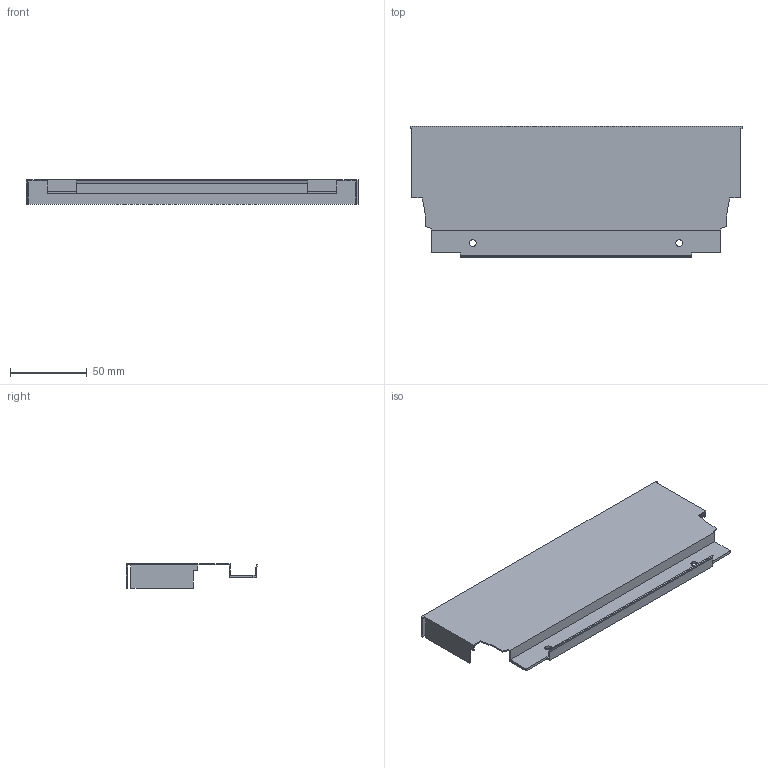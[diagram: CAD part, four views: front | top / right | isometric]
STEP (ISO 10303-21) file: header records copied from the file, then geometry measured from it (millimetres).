
FILE_DESCRIPTION (( 'STEP AP214' ), '1' );
FILE_NAME ('_DWD_XP Stahlrückwand_H86_KAB300_S17.step', '2010-07-08T12:10:04', ( 'grass' ), ( '' ), 'SwSTEP 2.0', 'SolidWorks 2010', '' );
FILE_SCHEMA (( 'AUTOMOTIVE_DESIGN' ));
Length unit declared in the file: millimetre
Products named in the file (1): _DWD_XP Stahlrückwand_H86_KAB300_S17
Bounding box: 217 x 85.79 x 16 mm (x, y, z)
Volume: 22521.7 mm3; surface area: 49881.9 mm2
Topology: 1 solids, 1 shells, 48 faces, 138 edges, 92 vertices
Faces by surface type: plane 44, cylinder 4
Entity records: 1592 total; most frequent: CARTESIAN_POINT 279, ORIENTED_EDGE 276, DIRECTION 244, EDGE_CURVE 138, VECTOR 130, LINE 130, VERTEX_POINT 92, AXIS2_PLACEMENT_3D 57
